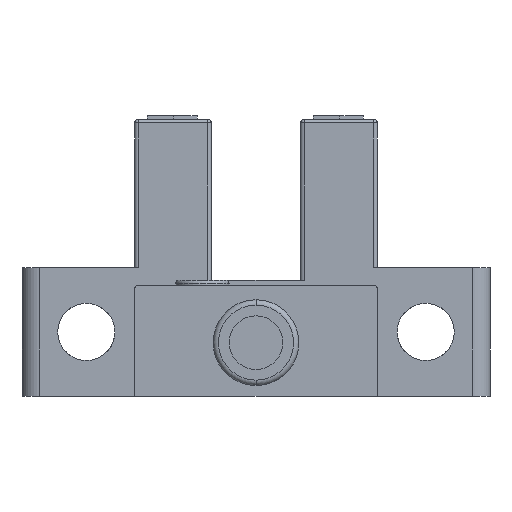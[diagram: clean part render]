
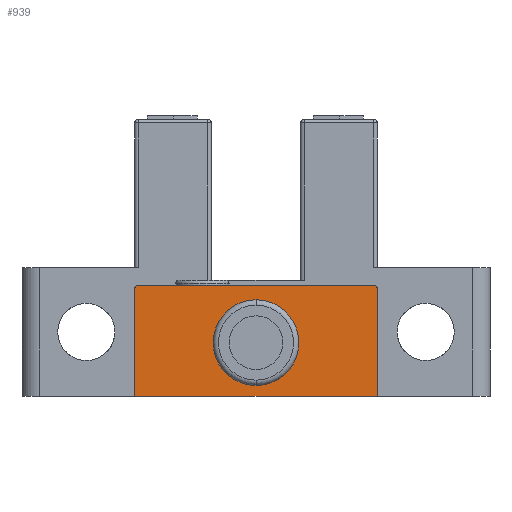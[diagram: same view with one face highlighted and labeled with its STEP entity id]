
A CAD part, front view. The second image highlights one B-rep face of the part: STEP entity #939.
In plain terms, the highlighted planar face has unit normal (0, -1, 0).
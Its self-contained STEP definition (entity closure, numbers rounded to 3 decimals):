
#1 = FACE_OUTER_BOUND ( 'NONE', #1883, .T. ) ;
#101 = CARTESIAN_POINT ( 'NONE',  ( 6.8, -26.7, 3. ) ) ;
#106 = EDGE_CURVE ( 'NONE', #1107, #3084, #3333, .T. ) ;
#191 = VERTEX_POINT ( 'NONE', #1862 ) ;
#197 = ORIENTED_EDGE ( 'NONE', *, *, #1680, .T. ) ;
#286 = ORIENTED_EDGE ( 'NONE', *, *, #106, .F. ) ;
#360 = CIRCLE ( 'NONE', #3291, 2.4 ) ;
#427 = CARTESIAN_POINT ( 'NONE',  ( 0., -26.7, 0. ) ) ;
#436 = CARTESIAN_POINT ( 'NONE',  ( 13.4, -26.7, 6.2 ) ) ;
#524 = VECTOR ( 'NONE', #2882, 1000. ) ;
#549 = DIRECTION ( 'NONE',  ( 0., 0., 1. ) ) ;
#550 = CARTESIAN_POINT ( 'NONE',  ( 13.6, -26.7, 6. ) ) ;
#608 = EDGE_CURVE ( 'NONE', #1107, #1391, #1839, .T. ) ;
#620 = DIRECTION ( 'NONE',  ( 0., 0., -1. ) ) ;
#624 = CIRCLE ( 'NONE', #1639, 0.2 ) ;
#653 = ORIENTED_EDGE ( 'NONE', *, *, #1986, .F. ) ;
#666 = ORIENTED_EDGE ( 'NONE', *, *, #3164, .T. ) ;
#696 = DIRECTION ( 'NONE',  ( 0., 0., 1. ) ) ;
#779 = VERTEX_POINT ( 'NONE', #2899 ) ;
#814 = FACE_BOUND ( 'NONE', #3999, .T. ) ;
#886 = CARTESIAN_POINT ( 'NONE',  ( 0., -26.7, 15.5 ) ) ;
#939 = ADVANCED_FACE ( 'NONE', ( #814, #1 ), #3968, .F. ) ;
#987 = VECTOR ( 'NONE', #2578, 1000. ) ;
#1061 = CARTESIAN_POINT ( 'NONE',  ( 0., -26.7, 6.2 ) ) ;
#1084 = CARTESIAN_POINT ( 'NONE',  ( 13.6, -26.7, 0. ) ) ;
#1107 = VERTEX_POINT ( 'NONE', #550 ) ;
#1165 = ORIENTED_EDGE ( 'NONE', *, *, #4002, .F. ) ;
#1181 = DIRECTION ( 'NONE',  ( 0., 1., 0. ) ) ;
#1310 = DIRECTION ( 'NONE',  ( 0., -1., 0. ) ) ;
#1391 = VERTEX_POINT ( 'NONE', #436 ) ;
#1437 = DIRECTION ( 'NONE',  ( 0., -1., 0. ) ) ;
#1466 = CARTESIAN_POINT ( 'NONE',  ( 13.4, -26.7, 6. ) ) ;
#1487 = DIRECTION ( 'NONE',  ( 0., 0., 1. ) ) ;
#1511 = VERTEX_POINT ( 'NONE', #2136 ) ;
#1558 = LINE ( 'NONE', #427, #987 ) ;
#1595 = DIRECTION ( 'NONE',  ( 0., -1., 0. ) ) ;
#1639 = AXIS2_PLACEMENT_3D ( 'NONE', #3778, #1310, #2172 ) ;
#1680 = EDGE_CURVE ( 'NONE', #1511, #191, #624, .T. ) ;
#1723 = VERTEX_POINT ( 'NONE', #1981 ) ;
#1839 = CIRCLE ( 'NONE', #1998, 0.2 ) ;
#1862 = CARTESIAN_POINT ( 'NONE',  ( 0., -26.7, 6. ) ) ;
#1883 = EDGE_LOOP ( 'NONE', ( #2753, #197, #666, #2213, #286, #1918 ) ) ;
#1918 = ORIENTED_EDGE ( 'NONE', *, *, #608, .T. ) ;
#1971 = AXIS2_PLACEMENT_3D ( 'NONE', #101, #1595, #696 ) ;
#1981 = CARTESIAN_POINT ( 'NONE',  ( 6.8, -26.7, 5.4 ) ) ;
#1986 = EDGE_CURVE ( 'NONE', #3810, #1723, #3191, .T. ) ;
#1998 = AXIS2_PLACEMENT_3D ( 'NONE', #1466, #1437, #3612 ) ;
#2085 = AXIS2_PLACEMENT_3D ( 'NONE', #2410, #1181, #549 ) ;
#2126 = EDGE_CURVE ( 'NONE', #1511, #1391, #3814, .T. ) ;
#2136 = CARTESIAN_POINT ( 'NONE',  ( 0.2, -26.7, 6.2 ) ) ;
#2172 = DIRECTION ( 'NONE',  ( 0., 0., 1. ) ) ;
#2213 = ORIENTED_EDGE ( 'NONE', *, *, #3062, .T. ) ;
#2232 = VECTOR ( 'NONE', #620, 1000. ) ;
#2265 = CARTESIAN_POINT ( 'NONE',  ( 6.8, -26.7, 0.6 ) ) ;
#2300 = DIRECTION ( 'NONE',  ( 0., -1., 0. ) ) ;
#2410 = CARTESIAN_POINT ( 'NONE',  ( 0., -26.7, 15.5 ) ) ;
#2429 = LINE ( 'NONE', #886, #2232 ) ;
#2578 = DIRECTION ( 'NONE',  ( 1., 0., 0. ) ) ;
#2753 = ORIENTED_EDGE ( 'NONE', *, *, #2126, .F. ) ;
#2882 = DIRECTION ( 'NONE',  ( 1., 0., 0. ) ) ;
#2899 = CARTESIAN_POINT ( 'NONE',  ( 0., -26.7, 0. ) ) ;
#2974 = CARTESIAN_POINT ( 'NONE',  ( 13.6, -26.7, 15.5 ) ) ;
#3062 = EDGE_CURVE ( 'NONE', #779, #3084, #1558, .T. ) ;
#3084 = VERTEX_POINT ( 'NONE', #1084 ) ;
#3164 = EDGE_CURVE ( 'NONE', #191, #779, #2429, .T. ) ;
#3191 = CIRCLE ( 'NONE', #1971, 2.4 ) ;
#3237 = VECTOR ( 'NONE', #3281, 1000. ) ;
#3260 = CARTESIAN_POINT ( 'NONE',  ( 6.8, -26.7, 3. ) ) ;
#3281 = DIRECTION ( 'NONE',  ( 0., 0., -1. ) ) ;
#3291 = AXIS2_PLACEMENT_3D ( 'NONE', #3260, #2300, #1487 ) ;
#3333 = LINE ( 'NONE', #2974, #3237 ) ;
#3612 = DIRECTION ( 'NONE',  ( 0., 0., 1. ) ) ;
#3778 = CARTESIAN_POINT ( 'NONE',  ( 0.2, -26.7, 6. ) ) ;
#3810 = VERTEX_POINT ( 'NONE', #2265 ) ;
#3814 = LINE ( 'NONE', #1061, #524 ) ;
#3968 = PLANE ( 'NONE',  #2085 ) ;
#3999 = EDGE_LOOP ( 'NONE', ( #1165, #653 ) ) ;
#4002 = EDGE_CURVE ( 'NONE', #1723, #3810, #360, .T. ) ;
